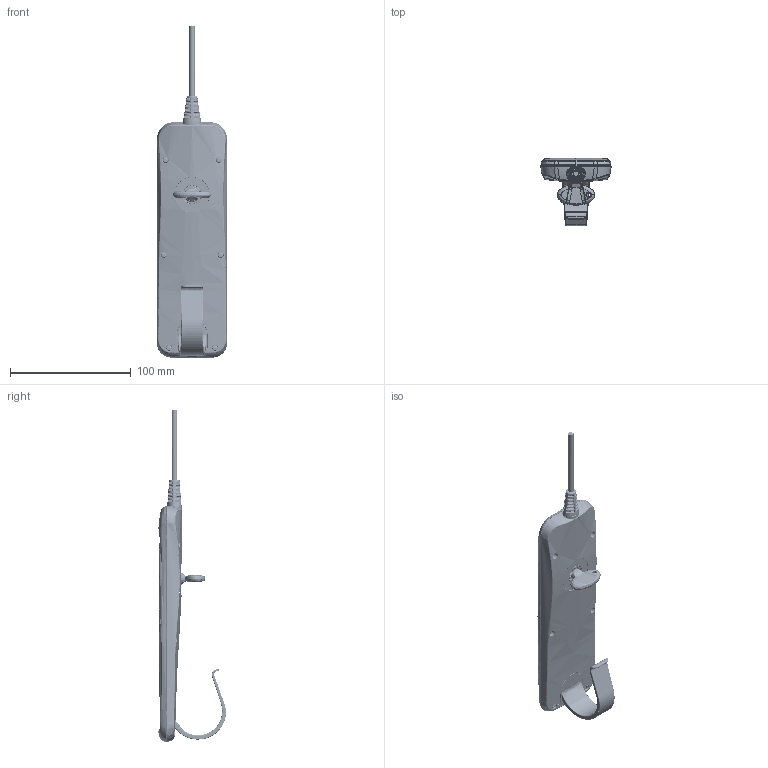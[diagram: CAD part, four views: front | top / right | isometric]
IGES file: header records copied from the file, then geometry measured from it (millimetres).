
Start section: SolidWorks IGES file using NURBS representation for surfaces
Global section: file name: C:\Users\lynn\Desktop\hs12.IGS; native system: SolidWorks 2015; preprocessor: SolidWorks 2015; author: lynn; date: 200908.164004; units: millimetre
Bounding box: 58 x 55.98 x 274.5 mm (x, y, z)
Surface area: 80655.4 mm2 (no closed solid volume)
Topology: 0 solids, 0 shells, 2363 faces, 26156 edges, 26133 vertices
Faces by surface type: bspline 2363
